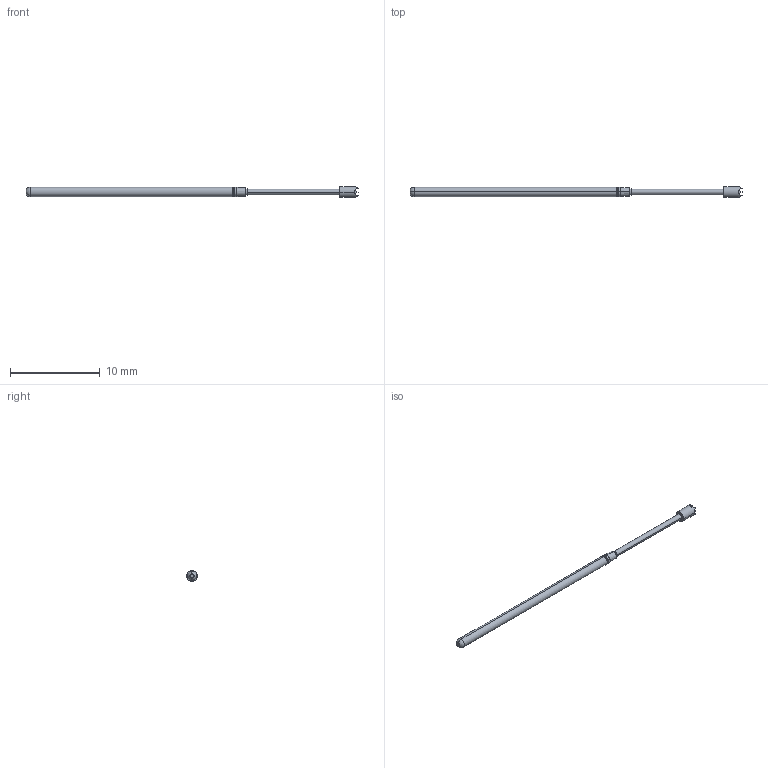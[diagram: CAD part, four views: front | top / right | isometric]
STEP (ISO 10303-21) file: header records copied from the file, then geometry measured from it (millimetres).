
FILE_DESCRIPTION (( 'STEP AP203' ), '1' );
FILE_NAME ('101348-000-922 (REST).STEP', '2022-11-24T08:45:42', ( '' ), ( '' ), 'SwSTEP 2.0', 'SolidWorks 2022', '' );
FILE_SCHEMA (( 'CONFIG_CONTROL_DESIGN' ));
Length unit declared in the file: inch
Products named in the file (1): 101348-000-922 (REST)
Bounding box: 37.08 x 1.22 x 1.22 mm (x, y, z)
Volume: 25.4 mm3; surface area: 110.3 mm2
Topology: 1 solids, 1 shells, 58 faces, 128 edges, 75 vertices
Faces by surface type: plane 36, cylinder 10, torus 6, cone 6
Entity records: 1641 total; most frequent: CARTESIAN_POINT 376, ORIENTED_EDGE 256, DIRECTION 242, EDGE_CURVE 128, AXIS2_PLACEMENT_3D 93, VERTEX_POINT 75, EDGE_LOOP 61, ADVANCED_FACE 58
